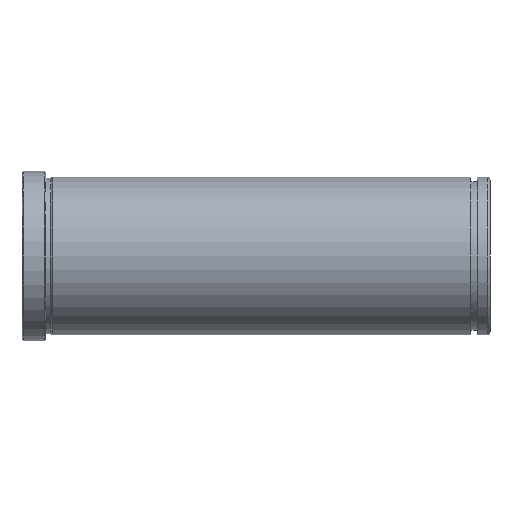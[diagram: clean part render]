
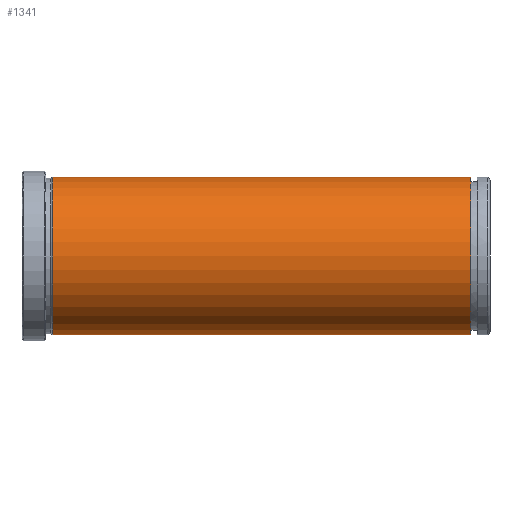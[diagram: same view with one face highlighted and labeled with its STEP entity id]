
A CAD part, front view. The second image highlights one B-rep face of the part: STEP entity #1341.
In plain terms, the highlighted cylindrical face has radius 33 mm (diameter 66 mm), a partial arc.
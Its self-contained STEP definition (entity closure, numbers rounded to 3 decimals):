
#1203=CARTESIAN_POINT('Vertex',(188.,0.,33.)) ;
#1206=CARTESIAN_POINT('Axis2P3D Location',(188.,0.,0.)) ;
#1210=CARTESIAN_POINT('Vertex',(188.,-33.,0.)) ;
#1213=CARTESIAN_POINT('Axis2P3D Location',(188.,0.,0.)) ;
#1217=CARTESIAN_POINT('Vertex',(188.,0.,-33.)) ;
#1247=CARTESIAN_POINT('Vertex',(12.866,0.,-33.)) ;
#1254=CARTESIAN_POINT('Vertex',(12.866,0.,33.)) ;
#1283=CARTESIAN_POINT('Axis2P3D Location',(12.866,0.,0.)) ;
#1287=CARTESIAN_POINT('Vertex',(12.866,-33.,0.)) ;
#1290=CARTESIAN_POINT('Axis2P3D Location',(12.866,0.,0.)) ;
#1309=CARTESIAN_POINT('Line Origine',(392.,0.,33.)) ;
#1314=CARTESIAN_POINT('Line Origine',(392.,0.,-33.)) ;
#1328=CARTESIAN_POINT('Axis2P3D Location',(392.,0.,0.)) ;
#1207=DIRECTION('Axis2P3D Direction',(1.,0.,-0.)) ;
#1214=DIRECTION('Axis2P3D Direction',(1.,0.,-0.)) ;
#1284=DIRECTION('Axis2P3D Direction',(1.,0.,-0.)) ;
#1291=DIRECTION('Axis2P3D Direction',(1.,0.,-0.)) ;
#1310=DIRECTION('Vector Direction',(-1.,0.,0.)) ;
#1315=DIRECTION('Vector Direction',(-1.,0.,0.)) ;
#1329=DIRECTION('Axis2P3D Direction',(-1.,-0.,-0.)) ;
#1330=DIRECTION('Axis2P3D XDirection',(0.,0.,-1.)) ;
#1208=AXIS2_PLACEMENT_3D('Circle Axis2P3D',#1206,#1207,$) ;
#1215=AXIS2_PLACEMENT_3D('Circle Axis2P3D',#1213,#1214,$) ;
#1285=AXIS2_PLACEMENT_3D('Circle Axis2P3D',#1283,#1284,$) ;
#1292=AXIS2_PLACEMENT_3D('Circle Axis2P3D',#1290,#1291,$) ;
#1331=AXIS2_PLACEMENT_3D('Cylinder Axis2P3D',#1328,#1329,#1330) ;
#1334=ORIENTED_EDGE('',*,*,#1318,.T.) ;
#1335=ORIENTED_EDGE('',*,*,#1219,.F.) ;
#1336=ORIENTED_EDGE('',*,*,#1212,.F.) ;
#1337=ORIENTED_EDGE('',*,*,#1313,.T.) ;
#1338=ORIENTED_EDGE('',*,*,#1294,.T.) ;
#1339=ORIENTED_EDGE('',*,*,#1289,.T.) ;
#1311=VECTOR('Line Direction',#1310,1.) ;
#1316=VECTOR('Line Direction',#1315,1.) ;
#1341=ADVANCED_FACE('553-52X196',(#1340),#1332,.T.) ;
#1209=CIRCLE('generated circle',#1208,33.) ;
#1216=CIRCLE('generated circle',#1215,33.) ;
#1286=CIRCLE('generated circle',#1285,33.) ;
#1293=CIRCLE('generated circle',#1292,33.) ;
#1332=CYLINDRICAL_SURFACE('generated cylinder',#1331,33.) ;
#1212=EDGE_CURVE('',#1204,#1211,#1209,.T.) ;
#1219=EDGE_CURVE('',#1211,#1218,#1216,.T.) ;
#1289=EDGE_CURVE('',#1288,#1248,#1286,.T.) ;
#1294=EDGE_CURVE('',#1255,#1288,#1293,.T.) ;
#1313=EDGE_CURVE('',#1204,#1255,#1312,.T.) ;
#1318=EDGE_CURVE('',#1248,#1218,#1317,.F.) ;
#1333=EDGE_LOOP('',(#1334,#1335,#1336,#1337,#1338,#1339)) ;
#1340=FACE_OUTER_BOUND('',#1333,.T.) ;
#1312=LINE('Line',#1309,#1311) ;
#1317=LINE('Line',#1314,#1316) ;
#1204=VERTEX_POINT('',#1203) ;
#1211=VERTEX_POINT('',#1210) ;
#1218=VERTEX_POINT('',#1217) ;
#1248=VERTEX_POINT('',#1247) ;
#1255=VERTEX_POINT('',#1254) ;
#1288=VERTEX_POINT('',#1287) ;
